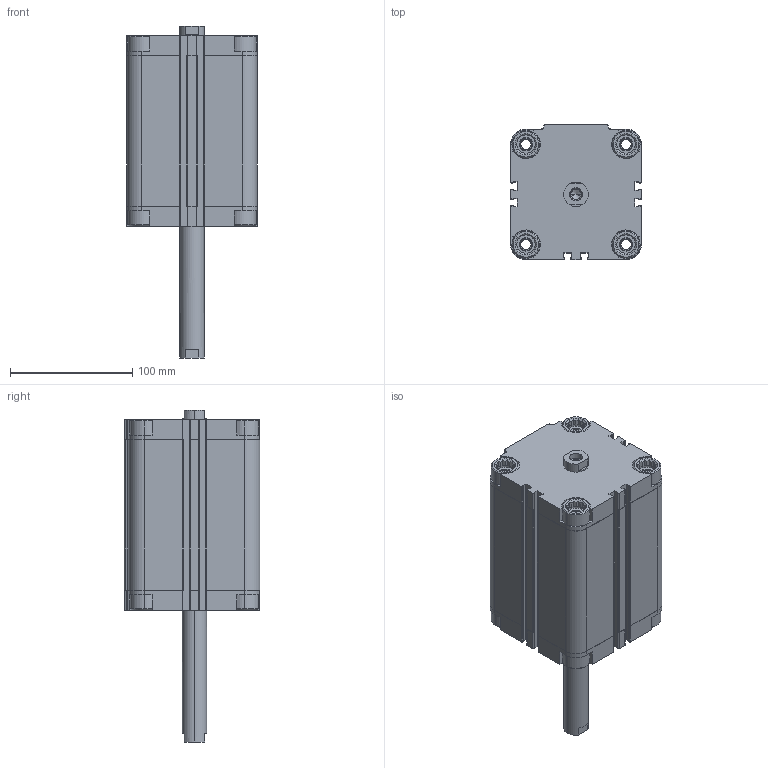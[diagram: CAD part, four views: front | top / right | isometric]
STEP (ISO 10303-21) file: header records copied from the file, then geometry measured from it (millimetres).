
FILE_DESCRIPTION (( 'STEP AP203' ), '1' );
FILE_NAME ('CDVU80-100F-P.STEP', '2020-07-24T18:41:02', ( '' ), ( '' ), 'SwSTEP 2.0', 'SolidWorks 2019', '' );
FILE_SCHEMA (( 'CONFIG_CONTROL_DESIGN' ));
Length unit declared in the file: millimetre
Products named in the file (1): CDVU80-100F-P
Bounding box: 107 x 111 x 272 mm (x, y, z)
Volume: 1221763.9 mm3; surface area: 203516.8 mm2
Topology: 2 solids, 2 shells, 670 faces, 1812 edges, 1188 vertices
Faces by surface type: plane 394, cylinder 212, cone 64
Entity records: 21267 total; most frequent: CARTESIAN_POINT 4239, ORIENTED_EDGE 3608, DIRECTION 3458, EDGE_CURVE 1804, VERTEX_POINT 1188, AXIS2_PLACEMENT_3D 1175, VECTOR 1108, LINE 1108
